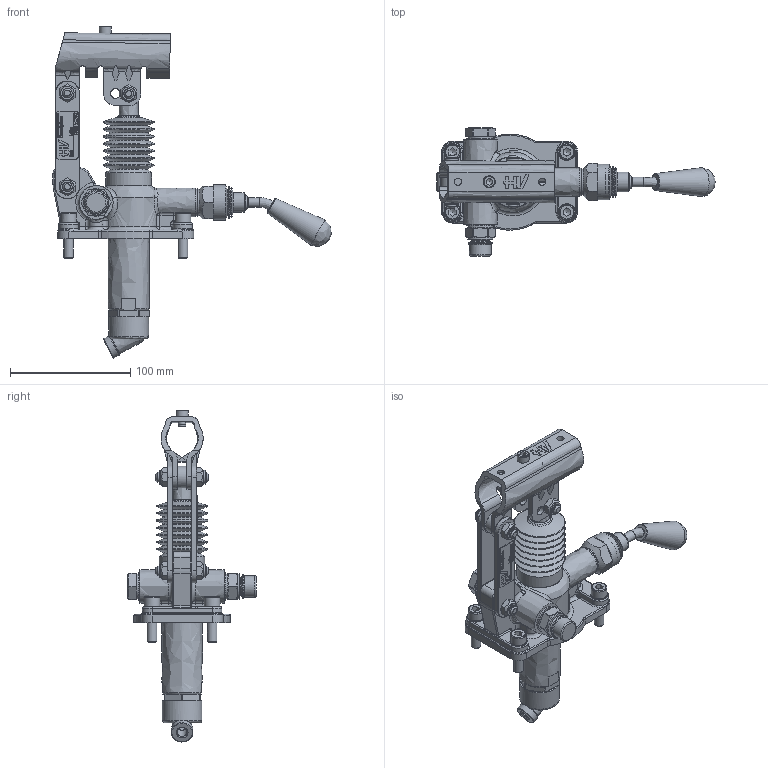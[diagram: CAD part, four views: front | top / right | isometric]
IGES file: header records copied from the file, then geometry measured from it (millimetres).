
Global section: file name: No Iges File Name specified; native system: Autodesk Inventor 2013; preprocessor: AutoDesk Inventor Iges Exporter R2013; author: christian.scardovi; date: 20240228.120326; units: millimetre
Bounding box: 231.27 x 106.5 x 276.08 mm (x, y, z)
Volume: 425296.8 mm3; surface area: 129916.3 mm2
Topology: 3 solids, 3 shells, 1480 faces, 3704 edges, 2332 vertices
Faces by surface type: bspline 1480
